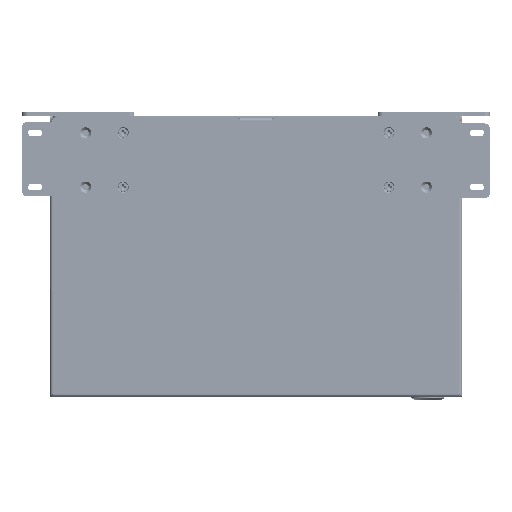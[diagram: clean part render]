
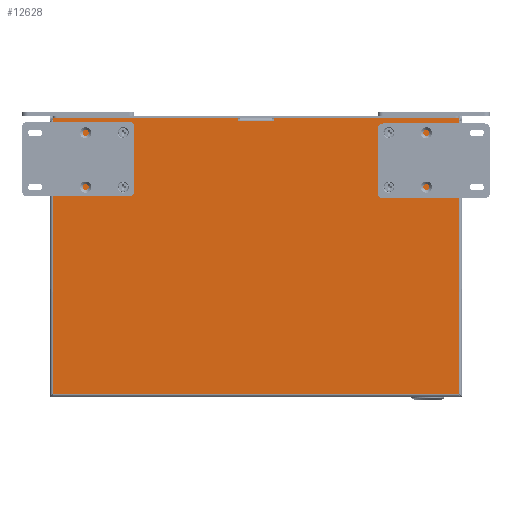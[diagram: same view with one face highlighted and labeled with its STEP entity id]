
A CAD part, front view. The second image highlights one B-rep face of the part: STEP entity #12628.
In plain terms, the highlighted planar face has unit normal (0, -1, 0).
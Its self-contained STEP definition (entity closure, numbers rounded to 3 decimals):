
#1411=CARTESIAN_POINT('',(-71.,0.,67.3));
#1412=DIRECTION('',(0.,1.,0.));
#1413=DIRECTION('',(1.,0.,0.));
#1414=AXIS2_PLACEMENT_3D('',#1411,#1412,#1413);
#1419=CARTESIAN_POINT('',(-71.,0.,67.3));
#1420=DIRECTION('',(0.,1.,0.));
#1421=DIRECTION('',(-1.,0.,0.));
#1422=AXIS2_PLACEMENT_3D('',#1419,#1420,#1421);
#1427=CARTESIAN_POINT('',(-71.,0.,38.3));
#1428=DIRECTION('',(0.,1.,0.));
#1429=DIRECTION('',(1.,0.,0.));
#1430=AXIS2_PLACEMENT_3D('',#1427,#1428,#1429);
#1435=CARTESIAN_POINT('',(-71.,0.,38.3));
#1436=DIRECTION('',(0.,1.,0.));
#1437=DIRECTION('',(-1.,0.,0.));
#1438=AXIS2_PLACEMENT_3D('',#1435,#1436,#1437);
#1443=CARTESIAN_POINT('',(71.,0.,67.3));
#1444=DIRECTION('',(0.,1.,0.));
#1445=DIRECTION('',(1.,0.,0.));
#1446=AXIS2_PLACEMENT_3D('',#1443,#1444,#1445);
#1451=CARTESIAN_POINT('',(71.,0.,67.3));
#1452=DIRECTION('',(0.,1.,0.));
#1453=DIRECTION('',(-1.,0.,0.));
#1454=AXIS2_PLACEMENT_3D('',#1451,#1452,#1453);
#1459=CARTESIAN_POINT('',(71.,0.,38.3));
#1460=DIRECTION('',(0.,1.,0.));
#1461=DIRECTION('',(1.,0.,0.));
#1462=AXIS2_PLACEMENT_3D('',#1459,#1460,#1461);
#1467=CARTESIAN_POINT('',(71.,0.,38.3));
#1468=DIRECTION('',(0.,1.,0.));
#1469=DIRECTION('',(-1.,0.,0.));
#1470=AXIS2_PLACEMENT_3D('',#1467,#1468,#1469);
#1475=DIRECTION('',(1.,0.,0.));
#1476=VECTOR('',#1475,1.);
#1477=CARTESIAN_POINT('',(8.5,0.,73.8));
#1478=LINE('',#1477,#1476);
#1482=DIRECTION('',(0.,0.,-1.));
#1483=VECTOR('',#1482,1.5);
#1484=CARTESIAN_POINT('',(9.5,0.,75.3));
#1485=LINE('',#1484,#1483);
#1489=DIRECTION('',(-1.,0.,0.));
#1490=VECTOR('',#1489,99.);
#1491=CARTESIAN_POINT('',(108.5,0.,75.3));
#1492=LINE('',#1491,#1490);
#1496=DIRECTION('',(0.,0.,1.));
#1497=VECTOR('',#1496,1.6);
#1498=CARTESIAN_POINT('',(108.5,0.,73.7));
#1499=LINE('',#1498,#1497);
#1503=DIRECTION('',(0.,0.,-1.));
#1504=VECTOR('',#1503,1.6);
#1505=CARTESIAN_POINT('',(-108.5,0.,75.3));
#1506=LINE('',#1505,#1504);
#1510=DIRECTION('',(-1.,0.,0.));
#1511=VECTOR('',#1510,99.);
#1512=CARTESIAN_POINT('',(-9.5,0.,75.3));
#1513=LINE('',#1512,#1511);
#1517=DIRECTION('',(0.,0.,-1.));
#1518=VECTOR('',#1517,1.5);
#1519=CARTESIAN_POINT('',(-9.5,0.,75.3));
#1520=LINE('',#1519,#1518);
#1524=DIRECTION('',(-1.,0.,0.));
#1525=VECTOR('',#1524,1.);
#1526=CARTESIAN_POINT('',(-8.5,0.,73.8));
#1527=LINE('',#1526,#1525);
#1610=DIRECTION('',(1.,0.,0.));
#1611=VECTOR('',#1610,17.);
#1612=CARTESIAN_POINT('',(-8.5,0.,73.8));
#1613=LINE('',#1612,#1611);
#1698=DIRECTION('',(0.,0.,1.));
#1699=VECTOR('',#1698,145.9);
#1700=CARTESIAN_POINT('',(-108.5,0.,-72.2));
#1701=LINE('',#1700,#1699);
#2340=DIRECTION('',(0.,0.,-1.));
#2341=VECTOR('',#2340,145.9);
#2342=CARTESIAN_POINT('',(108.5,0.,73.7));
#2343=LINE('',#2342,#2341);
#4878=DIRECTION('',(-1.,0.,0.));
#4879=VECTOR('',#4878,217.);
#4880=CARTESIAN_POINT('',(108.5,0.,-72.2));
#4881=LINE('',#4880,#4879);
#9639=CARTESIAN_POINT('',(108.5,0.,73.7));
#9641=VERTEX_POINT('',#9639);
#9647=CARTESIAN_POINT('',(108.5,0.,-72.2));
#9648=VERTEX_POINT('',#9647);
#9655=CARTESIAN_POINT('',(-108.5,0.,-72.2));
#9656=VERTEX_POINT('',#9655);
#9657=CARTESIAN_POINT('',(-108.5,0.,73.7));
#9659=VERTEX_POINT('',#9657);
#10235=CARTESIAN_POINT('',(108.5,0.,75.3));
#10236=VERTEX_POINT('',#10235);
#10237=CARTESIAN_POINT('',(-108.5,0.,75.3));
#10238=VERTEX_POINT('',#10237);
#10323=CARTESIAN_POINT('',(-69.5,0.,67.3));
#10324=CARTESIAN_POINT('',(-72.5,0.,67.3));
#10325=VERTEX_POINT('',#10323);
#10326=VERTEX_POINT('',#10324);
#10327=CARTESIAN_POINT('',(-69.5,0.,38.3));
#10328=CARTESIAN_POINT('',(-72.5,0.,38.3));
#10329=VERTEX_POINT('',#10327);
#10330=VERTEX_POINT('',#10328);
#10331=CARTESIAN_POINT('',(72.5,0.,67.3));
#10332=CARTESIAN_POINT('',(69.5,0.,67.3));
#10333=VERTEX_POINT('',#10331);
#10334=VERTEX_POINT('',#10332);
#10335=CARTESIAN_POINT('',(72.5,0.,38.3));
#10336=CARTESIAN_POINT('',(69.5,0.,38.3));
#10337=VERTEX_POINT('',#10335);
#10338=VERTEX_POINT('',#10336);
#10475=CARTESIAN_POINT('',(-8.5,0.,73.8));
#10476=CARTESIAN_POINT('',(-9.5,0.,73.8));
#10477=VERTEX_POINT('',#10475);
#10478=VERTEX_POINT('',#10476);
#10479=CARTESIAN_POINT('',(-9.5,0.,75.3));
#10480=VERTEX_POINT('',#10479);
#10487=CARTESIAN_POINT('',(8.5,0.,73.8));
#10488=CARTESIAN_POINT('',(9.5,0.,73.8));
#10489=VERTEX_POINT('',#10487);
#10490=VERTEX_POINT('',#10488);
#10491=CARTESIAN_POINT('',(9.5,0.,75.3));
#10492=VERTEX_POINT('',#10491);
#12574=CARTESIAN_POINT('',(0.,0.,0.));
#12575=DIRECTION('',(0.,1.,0.));
#12576=DIRECTION('',(1.,0.,0.));
#12577=AXIS2_PLACEMENT_3D('',#12574,#12575,#12576);
#12578=PLANE('',#12577);
#12580=ORIENTED_EDGE('',*,*,#12579,.T.);
#12582=ORIENTED_EDGE('',*,*,#12581,.F.);
#12584=ORIENTED_EDGE('',*,*,#12583,.F.);
#12586=ORIENTED_EDGE('',*,*,#12585,.F.);
#12588=ORIENTED_EDGE('',*,*,#12587,.T.);
#12590=ORIENTED_EDGE('',*,*,#12589,.T.);
#12592=ORIENTED_EDGE('',*,*,#12591,.T.);
#12594=ORIENTED_EDGE('',*,*,#12593,.F.);
#12596=ORIENTED_EDGE('',*,*,#12595,.F.);
#12598=ORIENTED_EDGE('',*,*,#12597,.T.);
#12600=ORIENTED_EDGE('',*,*,#12599,.F.);
#12602=ORIENTED_EDGE('',*,*,#12601,.T.);
#12603=EDGE_LOOP('',(#12580,#12582,#12584,#12586,#12588,#12590,#12592,#12594,
#12596,#12598,#12600,#12602));
#12604=FACE_OUTER_BOUND('',#12603,.F.);
#12606=ORIENTED_EDGE('',*,*,#12605,.F.);
#12608=ORIENTED_EDGE('',*,*,#12607,.F.);
#12609=EDGE_LOOP('',(#12606,#12608));
#12610=FACE_BOUND('',#12609,.F.);
#12612=ORIENTED_EDGE('',*,*,#12611,.F.);
#12614=ORIENTED_EDGE('',*,*,#12613,.F.);
#12615=EDGE_LOOP('',(#12612,#12614));
#12616=FACE_BOUND('',#12615,.F.);
#12617=ORIENTED_EDGE('',*,*,#12557,.F.);
#12619=ORIENTED_EDGE('',*,*,#12618,.F.);
#12620=EDGE_LOOP('',(#12617,#12619));
#12621=FACE_BOUND('',#12620,.F.);
#12623=ORIENTED_EDGE('',*,*,#12622,.F.);
#12625=ORIENTED_EDGE('',*,*,#12624,.F.);
#12626=EDGE_LOOP('',(#12623,#12625));
#12627=FACE_BOUND('',#12626,.F.);
#12628=ADVANCED_FACE('',(#12604,#12610,#12616,#12621,#12627),#12578,.F.);
#1415=CIRCLE('',#1414,1.5);
#1423=CIRCLE('',#1422,1.5);
#1431=CIRCLE('',#1430,1.5);
#1439=CIRCLE('',#1438,1.5);
#1447=CIRCLE('',#1446,1.5);
#1455=CIRCLE('',#1454,1.5);
#1463=CIRCLE('',#1462,1.5);
#1471=CIRCLE('',#1470,1.5);
#12557=EDGE_CURVE('',#10337,#10338,#1463,.T.);
#12579=EDGE_CURVE('',#10489,#10490,#1478,.T.);
#12581=EDGE_CURVE('',#10492,#10490,#1485,.T.);
#12583=EDGE_CURVE('',#10236,#10492,#1492,.T.);
#12585=EDGE_CURVE('',#9641,#10236,#1499,.T.);
#12587=EDGE_CURVE('',#9641,#9648,#2343,.T.);
#12589=EDGE_CURVE('',#9648,#9656,#4881,.T.);
#12591=EDGE_CURVE('',#9656,#9659,#1701,.T.);
#12593=EDGE_CURVE('',#10238,#9659,#1506,.T.);
#12595=EDGE_CURVE('',#10480,#10238,#1513,.T.);
#12597=EDGE_CURVE('',#10480,#10478,#1520,.T.);
#12599=EDGE_CURVE('',#10477,#10478,#1527,.T.);
#12601=EDGE_CURVE('',#10477,#10489,#1613,.T.);
#12605=EDGE_CURVE('',#10329,#10330,#1431,.T.);
#12607=EDGE_CURVE('',#10330,#10329,#1439,.T.);
#12611=EDGE_CURVE('',#10333,#10334,#1447,.T.);
#12613=EDGE_CURVE('',#10334,#10333,#1455,.T.);
#12618=EDGE_CURVE('',#10338,#10337,#1471,.T.);
#12622=EDGE_CURVE('',#10325,#10326,#1415,.T.);
#12624=EDGE_CURVE('',#10326,#10325,#1423,.T.);
